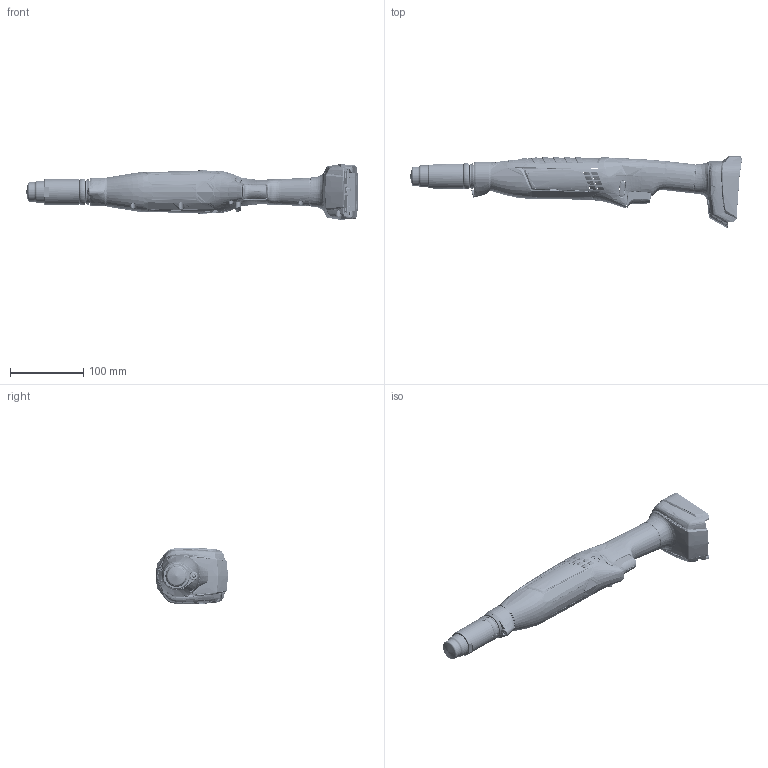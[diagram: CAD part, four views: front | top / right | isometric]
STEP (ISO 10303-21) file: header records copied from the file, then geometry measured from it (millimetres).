
FILE_DESCRIPTION((''),'2;1');
FILE_NAME('AWAS_30-300_BARETOOL_SW0001','2011-06-29T',('lem2mt'),(''),'PRO/ENGINEER BY PARAMETRIC TECHNOLOGY CORPORATION, 2009380','PRO/ENGINEER BY PARAMETRIC TECHNOLOGY CORPORATION, 2009380','');
FILE_SCHEMA(('AUTOMOTIVE_DESIGN_CC2 { 1 2 10303 214 -1 1 5 2 }'));
Length unit declared in the file: millimetre
Products named in the file (1): AWAS_30-300_BARETOOL_SW0001
Bounding box: 454.51 x 98.34 x 77.09 mm (x, y, z)
Volume: 283515.2 mm3; surface area: 237321.9 mm2
Topology: 5 solids, 7 shells, 8111 faces, 21498 edges, 13438 vertices
Faces by surface type: bspline 2919, plane 2703, cylinder 1454, cone 586, torus 160, sphere 155, extrusion 134
Entity records: 672596 total; most frequent: CARTESIAN_POINT 343034, ORIENTED_EDGE 42904, PRESENTATION_STYLE_ASSIGNMENT 29641, DIRECTION 24529, STYLED_ITEM 21591, CURVE_STYLE 21586, EDGE_CURVE 21452, FILL_AREA_STYLE_COLOUR 15447
